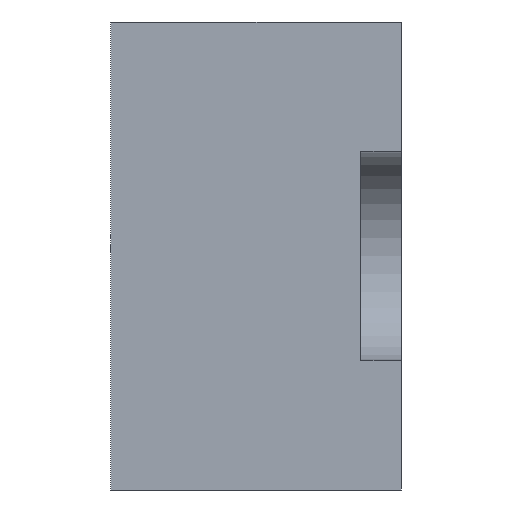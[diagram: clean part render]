
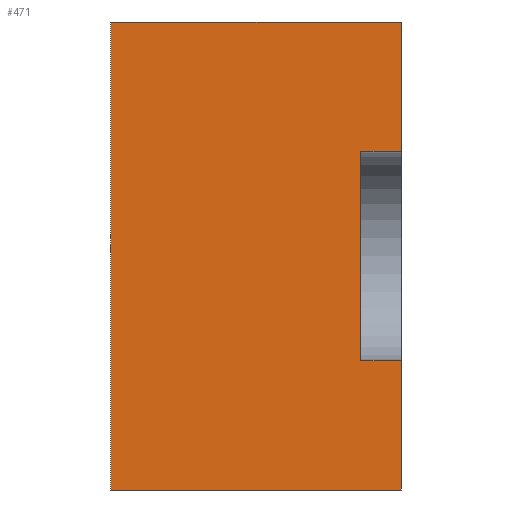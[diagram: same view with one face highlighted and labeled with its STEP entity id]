
A CAD part, left-side view. The second image highlights one B-rep face of the part: STEP entity #471.
In plain terms, the highlighted planar face has unit normal (-1, 0, 0).
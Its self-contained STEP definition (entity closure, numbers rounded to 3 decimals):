
#1 = DIRECTION ( 'NONE',  ( 0., 0., -1. ) ) ;
#9 = CARTESIAN_POINT ( 'NONE',  ( -39., 5., 13. ) ) ;
#28 = EDGE_CURVE ( 'NONE', #508, #61, #196, .T. ) ;
#32 = CARTESIAN_POINT ( 'NONE',  ( -39., 0., -29. ) ) ;
#34 = VERTEX_POINT ( 'NONE', #154 ) ;
#39 = LINE ( 'NONE', #32, #155 ) ;
#49 = DIRECTION ( 'NONE',  ( 0., -1., 0. ) ) ;
#61 = VERTEX_POINT ( 'NONE', #78 ) ;
#77 = LINE ( 'NONE', #372, #110 ) ;
#78 = CARTESIAN_POINT ( 'NONE',  ( -39., 0., -13. ) ) ;
#86 = FACE_OUTER_BOUND ( 'NONE', #256, .T. ) ;
#88 = DIRECTION ( 'NONE',  ( 1., 0., 0. ) ) ;
#91 = ORIENTED_EDGE ( 'NONE', *, *, #157, .F. ) ;
#102 = VECTOR ( 'NONE', #320, 1000. ) ;
#110 = VECTOR ( 'NONE', #158, 1000. ) ;
#112 = AXIS2_PLACEMENT_3D ( 'NONE', #422, #88, #1 ) ;
#124 = CARTESIAN_POINT ( 'NONE',  ( -39., 5., 13. ) ) ;
#142 = LINE ( 'NONE', #268, #102 ) ;
#154 = CARTESIAN_POINT ( 'NONE',  ( -39., 5., -13. ) ) ;
#155 = VECTOR ( 'NONE', #541, 1000. ) ;
#157 = EDGE_CURVE ( 'NONE', #34, #61, #166, .T. ) ;
#158 = DIRECTION ( 'NONE',  ( 0., 0., 1. ) ) ;
#166 = LINE ( 'NONE', #289, #218 ) ;
#169 = CARTESIAN_POINT ( 'NONE',  ( -39., 5., -13. ) ) ;
#183 = VERTEX_POINT ( 'NONE', #317 ) ;
#196 = LINE ( 'NONE', #456, #364 ) ;
#197 = EDGE_CURVE ( 'NONE', #183, #316, #142, .T. ) ;
#218 = VECTOR ( 'NONE', #461, 1000. ) ;
#220 = VERTEX_POINT ( 'NONE', #486 ) ;
#223 = ORIENTED_EDGE ( 'NONE', *, *, #197, .F. ) ;
#252 = VECTOR ( 'NONE', #460, 1000. ) ;
#256 = EDGE_LOOP ( 'NONE', ( #269, #424, #345, #223, #503, #380, #443, #91 ) ) ;
#268 = CARTESIAN_POINT ( 'NONE',  ( -39., 36., 29. ) ) ;
#269 = ORIENTED_EDGE ( 'NONE', *, *, #475, .F. ) ;
#289 = CARTESIAN_POINT ( 'NONE',  ( -39., 5., -13. ) ) ;
#290 = LINE ( 'NONE', #473, #392 ) ;
#296 = LINE ( 'NONE', #169, #323 ) ;
#300 = EDGE_CURVE ( 'NONE', #347, #183, #77, .T. ) ;
#316 = VERTEX_POINT ( 'NONE', #536 ) ;
#317 = CARTESIAN_POINT ( 'NONE',  ( -39., 36., 29. ) ) ;
#320 = DIRECTION ( 'NONE',  ( 0., -1., 0. ) ) ;
#323 = VECTOR ( 'NONE', #505, 1000. ) ;
#342 = CARTESIAN_POINT ( 'NONE',  ( -39., 0., -29. ) ) ;
#345 = ORIENTED_EDGE ( 'NONE', *, *, #412, .T. ) ;
#347 = VERTEX_POINT ( 'NONE', #376 ) ;
#364 = VECTOR ( 'NONE', #497, 1000. ) ;
#372 = CARTESIAN_POINT ( 'NONE',  ( -39., 36., -29. ) ) ;
#376 = CARTESIAN_POINT ( 'NONE',  ( -39., 36., -29. ) ) ;
#380 = ORIENTED_EDGE ( 'NONE', *, *, #458, .T. ) ;
#387 = PLANE ( 'NONE',  #112 ) ;
#392 = VECTOR ( 'NONE', #49, 1000. ) ;
#401 = EDGE_CURVE ( 'NONE', #429, #220, #538, .T. ) ;
#412 = EDGE_CURVE ( 'NONE', #220, #316, #39, .T. ) ;
#422 = CARTESIAN_POINT ( 'NONE',  ( -39., 36., -29. ) ) ;
#424 = ORIENTED_EDGE ( 'NONE', *, *, #401, .T. ) ;
#429 = VERTEX_POINT ( 'NONE', #9 ) ;
#443 = ORIENTED_EDGE ( 'NONE', *, *, #28, .T. ) ;
#456 = CARTESIAN_POINT ( 'NONE',  ( -39., 0., -29. ) ) ;
#458 = EDGE_CURVE ( 'NONE', #347, #508, #290, .T. ) ;
#460 = DIRECTION ( 'NONE',  ( 0., -1., 0. ) ) ;
#461 = DIRECTION ( 'NONE',  ( 0., -1., 0. ) ) ;
#471 = ADVANCED_FACE ( 'NONE', ( #86 ), #387, .F. ) ;
#473 = CARTESIAN_POINT ( 'NONE',  ( -39., 36., -29. ) ) ;
#475 = EDGE_CURVE ( 'NONE', #429, #34, #296, .T. ) ;
#486 = CARTESIAN_POINT ( 'NONE',  ( -39., 0., 13. ) ) ;
#497 = DIRECTION ( 'NONE',  ( 0., 0., 1. ) ) ;
#503 = ORIENTED_EDGE ( 'NONE', *, *, #300, .F. ) ;
#505 = DIRECTION ( 'NONE',  ( 0., 0., -1. ) ) ;
#508 = VERTEX_POINT ( 'NONE', #342 ) ;
#536 = CARTESIAN_POINT ( 'NONE',  ( -39., 0., 29. ) ) ;
#538 = LINE ( 'NONE', #124, #252 ) ;
#541 = DIRECTION ( 'NONE',  ( 0., 0., 1. ) ) ;
